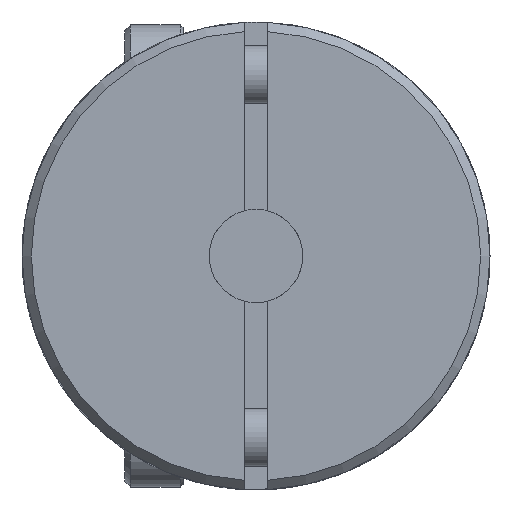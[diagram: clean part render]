
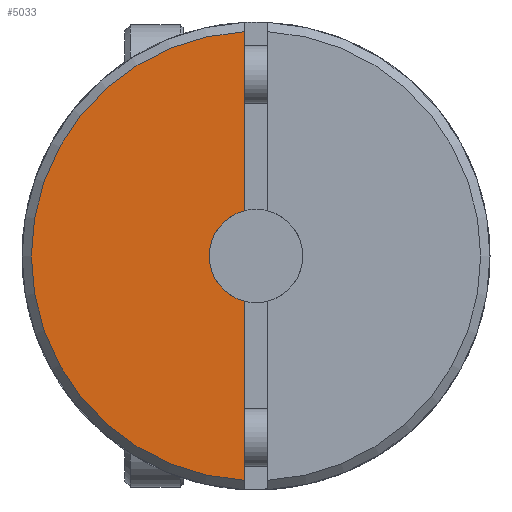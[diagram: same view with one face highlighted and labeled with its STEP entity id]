
A CAD part, left-side view. The second image highlights one B-rep face of the part: STEP entity #5033.
In plain terms, the highlighted planar face has unit normal (-1, 0, 0).
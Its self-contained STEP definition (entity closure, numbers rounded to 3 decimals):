
#439=CIRCLE('',#5425,4.);
#449=CIRCLE('',#5441,19.2);
#851=FACE_OUTER_BOUND('',#1189,.T.);
#1189=EDGE_LOOP('',(#3476,#3477,#3478,#3479));
#1581=LINE('',#7891,#1825);
#1599=LINE('',#8113,#1843);
#1825=VECTOR('',#6137,1000.);
#1843=VECTOR('',#6267,1000.);
#2069=VERTEX_POINT('',#7888);
#2070=VERTEX_POINT('',#7890);
#2112=VERTEX_POINT('',#8100);
#2113=VERTEX_POINT('',#8112);
#2571=EDGE_CURVE('',#2070,#2069,#1581,.T.);
#2628=EDGE_CURVE('',#2069,#2112,#439,.T.);
#2634=EDGE_CURVE('',#2112,#2113,#1599,.T.);
#2644=EDGE_CURVE('',#2070,#2113,#449,.T.);
#3476=ORIENTED_EDGE('',*,*,#2628,.T.);
#3477=ORIENTED_EDGE('',*,*,#2634,.T.);
#3478=ORIENTED_EDGE('',*,*,#2644,.F.);
#3479=ORIENTED_EDGE('',*,*,#2571,.T.);
#4914=PLANE('',#5440);
#5033=ADVANCED_FACE('',(#851),#4914,.F.);
#5425=AXIS2_PLACEMENT_3D('',#8102,#6247,#6248);
#5440=AXIS2_PLACEMENT_3D('',#8130,#6282,#6283);
#5441=AXIS2_PLACEMENT_3D('',#8131,#6284,#6285);
#6137=DIRECTION('',(0.,0.,1.));
#6247=DIRECTION('center_axis',(1.,0.,0.));
#6248=DIRECTION('ref_axis',(0.,0.,-1.));
#6267=DIRECTION('',(0.,0.,1.));
#6282=DIRECTION('center_axis',(1.,0.,0.));
#6283=DIRECTION('ref_axis',(0.,0.,-1.));
#6284=DIRECTION('center_axis',(1.,0.,0.));
#6285=DIRECTION('ref_axis',(0.,0.,-1.));
#7888=CARTESIAN_POINT('',(-86.1,1.,-3.873));
#7890=CARTESIAN_POINT('',(-86.1,1.,-19.174));
#7891=CARTESIAN_POINT('',(-86.1,1.,-19.975));
#8100=CARTESIAN_POINT('',(-86.1,1.,3.873));
#8102=CARTESIAN_POINT('Origin',(-86.1,0.,0.));
#8112=CARTESIAN_POINT('',(-86.1,1.,19.174));
#8113=CARTESIAN_POINT('',(-86.1,1.,-19.975));
#8130=CARTESIAN_POINT('Origin',(-86.1,0.,0.));
#8131=CARTESIAN_POINT('Origin',(-86.1,0.,0.));
